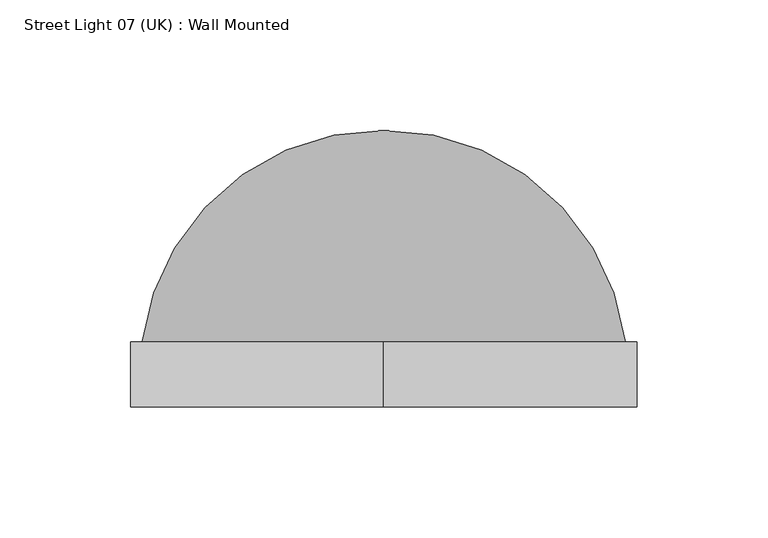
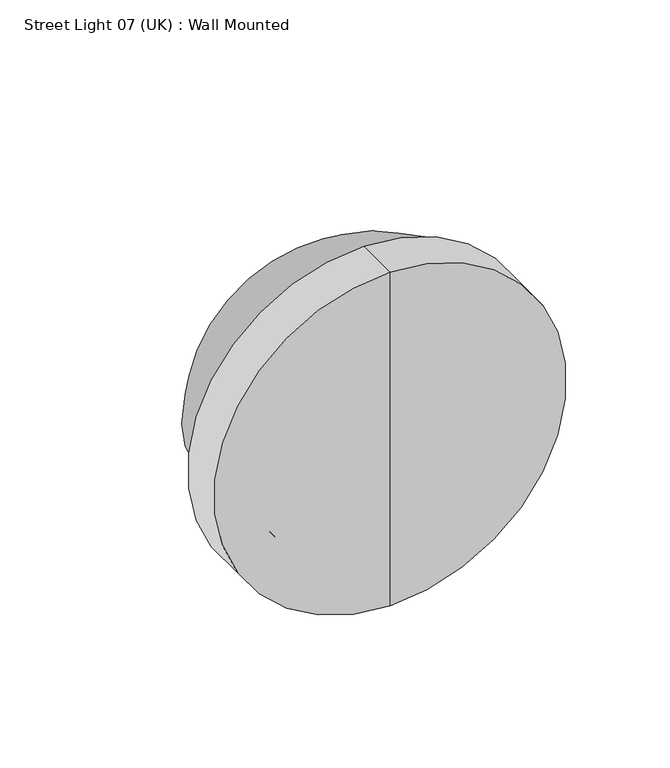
"""IFC4 building model written with IfcOpenShell, lengths in millimetres: light fixture geometry, Street Light 07 (UK) : Wall Mounted."""

from ifc_helpers import new_model, si_unit, point, frame, origin, place, context, project, spatial, polyline, circle_curve, ellipse_curve, trimmed, source, transform, mapped, element, save
from ifc_brep_helpers import plane_surface, cylinder_surface, revolved_surface, advanced_brep


def street_light_07_uk_wall_mounted_94188376(model_context):
    return source(origin(), model_context, "Body", "AdvancedBrep", [
        advanced_brep(
        [(211.608148, 50.0, 2278.6607917), (125.0, 125.1695134, 2278.6607917), (125.0, 130.9435974, 2278.6607917), (217.429795, 50.0, 2278.6607917), (38.391852, 50.0, 2278.6607917), (32.570205, 50.0, 2278.6607917)],
        [
            (0, 1, circle_curve(frame((125.7582507, 38.5646846, 2278.6607917), z_axis=(0.0, 0.0, 1.0), x_axis=(0.0, 1.0, 0.0)), 86.608148)),
            (1, 2),
            (2, 3, circle_curve(frame((125.7582507, 38.5646846, 2278.6607917), z_axis=(0.0, 0.0, -1.0), x_axis=(0.0, 1.0, 0.0)), 92.3820245)),
            (3, 0),
            (4, 5),
            (5, 2, circle_curve(frame((124.2417493, 38.5646846, 2278.6607917), z_axis=(0.0, 0.0, -1.0), x_axis=(0.0, 1.0, 0.0)), 92.3820245)),
            (1, 4, circle_curve(frame((124.2417493, 38.5646846, 2278.6607917), z_axis=(0.0, 0.0, 1.0), x_axis=(0.0, 1.0, 0.0)), 86.608148)),
            (0, 4, circle_curve(frame((125.0, 50.0, 2278.6607917), z_axis=(0.0, -1.0, 0.0), x_axis=(1.0, 0.0, 0.0)), 86.608148)),
            (5, 3, circle_curve(frame((125.0, 50.0, 2278.6607917), z_axis=(0.0, 1.0, 0.0), x_axis=(1.0, 0.0, 0.0)), 92.429795)),
        ],
        [
            plane_surface(frame((125.0, -40.0, 2278.6607917), z_axis=(0.0, 0.0, -1.0), x_axis=(1.0, 0.0, 0.0))),
            plane_surface(frame((125.0, -40.0, 2278.6607917), z_axis=(0.0, 0.0, -1.0), x_axis=(-1.0, 0.0, 0.0))),
            revolved_surface(trimmed(ellipse_curve(frame((125.7582507, 38.5646846, 2278.6607917), z_axis=(0.0, 0.0, -1.0), x_axis=(0.0, 1.0, 0.0)), 86.608148, 86.608148), [point((125.0, 125.1695134, 2278.6607917))], [point((211.608148, 50.0, 2278.6607917))], True, "CARTESIAN"), (125.0, -40.0, 2278.6607917), (0.0, 1.0, 0.0)),
            revolved_surface(trimmed(ellipse_curve(frame((125.7582507, 38.5646846, 2278.6607917), z_axis=(0.0, 0.0, 1.0), x_axis=(0.0, 1.0, 0.0)), 92.3820245, 92.3820245), [point((217.429795, 50.0, 2278.6607917))], [point((125.0, 130.9435974, 2278.6607917))], True, "CARTESIAN"), (125.0, -40.0, 2278.6607917), (0.0, 1.0, 0.0)),
            plane_surface(frame((125.0, 50.0, 2278.6607917), z_axis=(0.0, -1.0, 0.0), x_axis=(1.0, 0.0, 0.0))),
        ],
        [
            (0, [[1, 2, 3, 4]]),
            (1, [[5, 6, -2, 7]]),
            (2, [[-1, 8, -7]]),
            (3, [[9, -3, -6]]),
            (4, [[-8, -4, -9, -5]]),
        ],
    ),
        advanced_brep(
        [(125.0, 30.0, 2278.6607917), (125.0, 30.0, 2209.1171623), (125.0, 30.0, 2348.2044211), (125.0, 111.9119127, 2278.6607917)],
        [
            (0, 1),
            (1, 2, circle_curve(frame((125.0, 30.0, 2278.6607917), z_axis=(0.0, -1.0, 0.0), x_axis=(0.0, 0.0, -1.0)), 69.5436294)),
            (2, 0),
            (2, 1, circle_curve(frame((125.0, 30.0, 2278.6607917), z_axis=(0.0, -1.0, 0.0), x_axis=(0.0, 0.0, -1.0)), 69.5436294)),
            (1, 3, circle_curve(frame((125.0, -19.6844328, 2350.6496926), z_axis=(1.0, 0.0, 0.0), x_axis=(0.0, 1.0, 0.0)), 150.0)),
            (3, 2, circle_curve(frame((125.0, -19.6844328, 2206.6718908), z_axis=(1.0, 0.0, 0.0), x_axis=(0.0, 1.0, 0.0)), 150.0)),
        ],
        [
            plane_surface(frame((125.0, 30.0, 2278.6607917), z_axis=(0.0, -1.0, 0.0), x_axis=(0.0, 0.0, -1.0))),
            revolved_surface(trimmed(ellipse_curve(frame((125.0, -19.6844328, 2350.6496926), z_axis=(-1.0, 0.0, 0.0), x_axis=(0.0, 1.0, 0.0)), 150.0, 150.0), [point((125.0, 111.9119127, 2278.6607917))], [point((125.0, 30.0, 2209.1171623))], True, "CARTESIAN"), (125.0, -170.0, 2278.6607917), (0.0, -1.0, 0.0)),
        ],
        [
            (0, [[1, 2, 3]]),
            (0, [[-3, 4, -1]]),
            (1, [[-2, 5, 6]]),
            (1, [[-4, -6, -5]]),
        ],
    ),
        advanced_brep(
        [(125.0, 25.0, 2278.6607917), (125.0, 25.0, 2181.1607917), (125.0, 25.0, 2376.1607917), (125.0, 30.0, 2351.1607917), (125.0, 30.0, 2206.1607917), (125.0, 30.0, 2278.6607917), (125.0, 50.0, 2351.1607917), (125.0, 50.0, 2206.1607917), (125.0, 50.0, 2376.1607917), (125.0, 50.0, 2181.1607917)],
        [
            (0, 1),
            (1, 2, circle_curve(frame((125.0, 25.0, 2278.6607917), z_axis=(0.0, -1.0, 0.0), x_axis=(0.0, 0.0, -1.0)), 97.5)),
            (2, 0),
            (2, 1, circle_curve(frame((125.0, 25.0, 2278.6607917), z_axis=(0.0, -1.0, 0.0), x_axis=(0.0, 0.0, -1.0)), 97.5)),
            (3, 4, circle_curve(frame((125.0, 30.0, 2278.6607917), z_axis=(0.0, 1.0, 0.0), x_axis=(0.0, 0.0, -1.0)), 72.5)),
            (4, 5),
            (5, 3),
            (4, 3, circle_curve(frame((125.0, 30.0, 2278.6607917), z_axis=(0.0, 1.0, 0.0), x_axis=(0.0, 0.0, -1.0)), 72.5)),
            (6, 7, circle_curve(frame((125.0, 50.0, 2278.6607917), z_axis=(0.0, 1.0, 0.0), x_axis=(0.0, 0.0, -1.0)), 72.5)),
            (7, 4),
            (3, 6),
            (7, 6, circle_curve(frame((125.0, 50.0, 2278.6607917), z_axis=(0.0, 1.0, 0.0), x_axis=(0.0, 0.0, -1.0)), 72.5)),
            (8, 9, circle_curve(frame((125.0, 50.0, 2278.6607917), z_axis=(0.0, 1.0, 0.0), x_axis=(0.0, 0.0, -1.0)), 97.5)),
            (9, 7),
            (6, 8),
            (9, 8, circle_curve(frame((125.0, 50.0, 2278.6607917), z_axis=(0.0, 1.0, 0.0), x_axis=(0.0, 0.0, -1.0)), 97.5)),
            (1, 9),
            (8, 2),
        ],
        [
            plane_surface(frame((125.0, 25.0, 2278.6607917), z_axis=(0.0, -1.0, 0.0), x_axis=(0.0, 0.0, -1.0))),
            plane_surface(frame((125.0, 30.0, 2278.6607917), z_axis=(0.0, 1.0, 0.0), x_axis=(0.0, 0.0, -1.0))),
            revolved_surface(polyline([(125.0, 30.0, 2206.1607917), (125.0, 50.0, 2206.1607917)]), (125.0, 0.0, 2278.6607917), (0.0, -1.0, 0.0)),
            plane_surface(frame((125.0, 50.0, 2278.6607917), z_axis=(0.0, 1.0, 0.0), x_axis=(0.0, 0.0, -1.0))),
            cylinder_surface(frame((125.0, 0.0, 2278.6607917), z_axis=(0.0, -1.0, 0.0), x_axis=(0.0, 0.0, -1.0)), 97.5),
        ],
        [
            (0, [[1, 2, 3]]),
            (0, [[-3, 4, -1]]),
            (1, [[5, 6, 7]]),
            (1, [[8, -7, -6]]),
            (2, [[9, 10, -5, 11]]),
            (2, [[12, -11, -8, -10]]),
            (3, [[13, 14, -9, 15]]),
            (3, [[16, -15, -12, -14]]),
            (4, [[-2, 17, -13, 18]]),
            (4, [[-4, -18, -16, -17]]),
        ],
    ),
    ])


if __name__ == "__main__":
    model = new_model("IFC4")
    model_context = context("Model", 3, world=origin())
    ifc_project = project(units=[si_unit("LENGTHUNIT", "METRE", prefix="MILLI")], contexts=[model_context])
    site = spatial("IfcSite", under=ifc_project)
    building = spatial("IfcBuilding", under=site)
    placement = place(None, origin())
    street_light_07_uk_wall_mounted_shape = street_light_07_uk_wall_mounted_94188376(model_context)
    element("IfcLightFixture", 1, ObjectType="Street Light 07 (UK) : Wall Mounted", at=placement, inside=building, context=model_context, shape_type="MappedRepresentation", body=[
        mapped(street_light_07_uk_wall_mounted_shape, transform((0.0, 0.0, 0.0), x_axis=(1.0, 0.0, 0.0), y_axis=(0.0, 1.0, 0.0), z_axis=(0.0, 0.0, 1.0))),
    ])
    save(model, "model.ifc")
